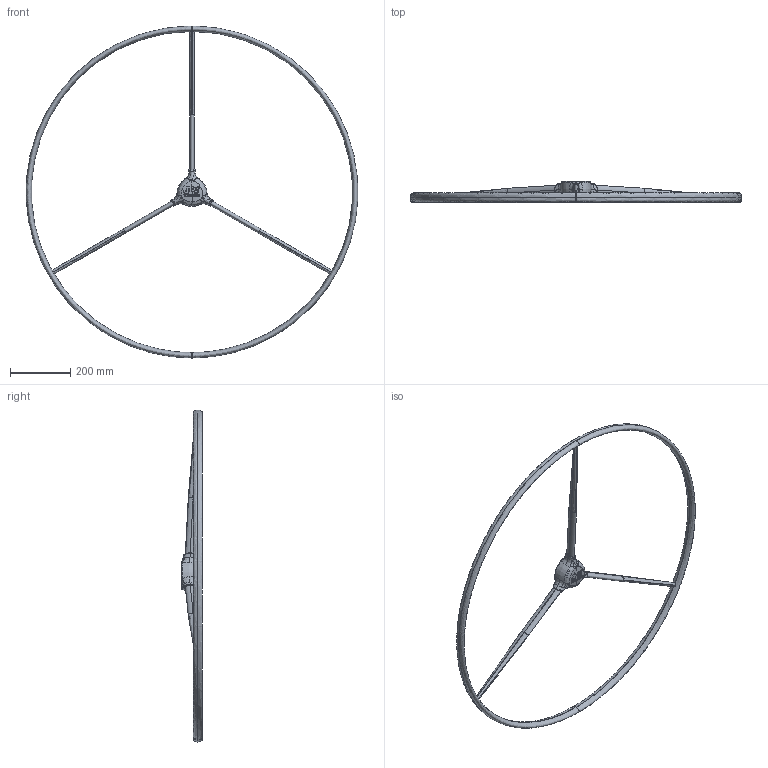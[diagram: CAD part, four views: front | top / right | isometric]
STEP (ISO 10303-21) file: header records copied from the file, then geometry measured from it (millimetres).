
FILE_DESCRIPTION(/* description */ (''),/* implementation_level */ '2;1');
FILE_NAME(/* name */ 'Roue_Titanium_1100',/* time_stamp */ '2012-02-23T15:06:32+01:00',/* author */ (''),/* organization */ (''),/* preprocessor_version */ 'ST-DEVELOPER v10',/* originating_system */ '',/* authorisation */ '');
FILE_SCHEMA (('AUTOMOTIVE_DESIGN'));
Length unit declared in the file: millimetre
Products named in the file (1): 1
Bounding box: 1099.05 x 69.5 x 1100 mm (x, y, z)
Volume: 585845.7 mm3; surface area: 760585.9 mm2
Topology: 6 solids, 21 shells, 215 faces, 639 edges, 451 vertices
Faces by surface type: bspline 215
Entity records: 27917 total; most frequent: CARTESIAN_POINT 24395, ORIENTED_EDGE 1163, EDGE_CURVE 637, VERTEX_POINT 451, B_SPLINE_CURVE_WITH_KNOTS 290, EDGE_LOOP 252, ADVANCED_FACE 215, FACE_OUTER_BOUND 215
